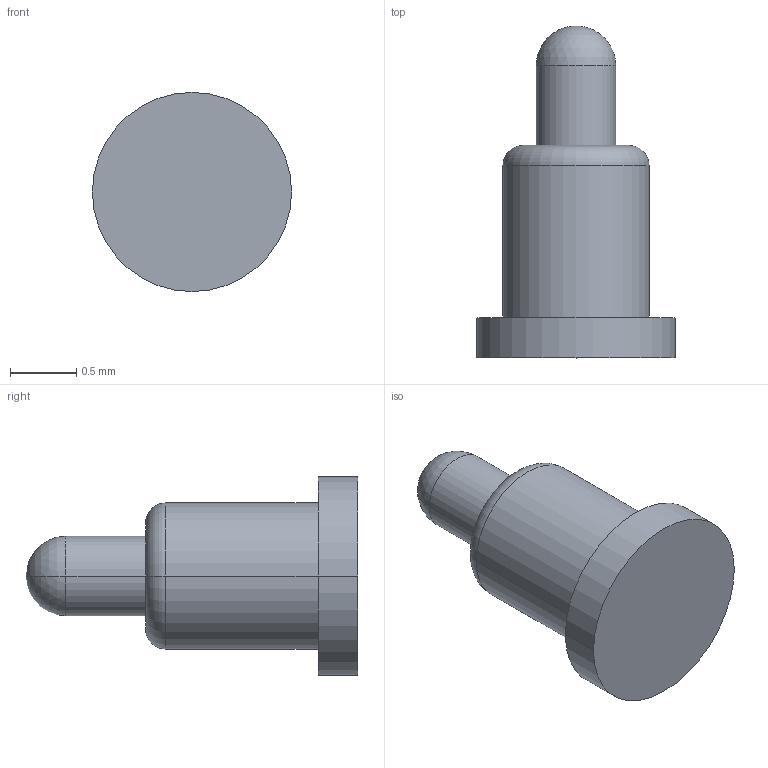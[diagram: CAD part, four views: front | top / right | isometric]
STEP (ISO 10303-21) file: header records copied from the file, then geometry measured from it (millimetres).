
FILE_DESCRIPTION((''),'2;1');
FILE_NAME('NC3281-01RA','2022-05-18T19:11:57',('Administrator'),(''),'CREO PARAMETRIC BY PTC INC, 2018400','CREO PARAMETRIC BY PTC INC, 2018400','');
FILE_SCHEMA(('CONFIG_CONTROL_DESIGN'));
Length unit declared in the file: millimetre
Products named in the file (1): NC3281-01RA
Bounding box: 1.5 x 2.5 x 1.5 mm (x, y, z)
Volume: 2 mm3; surface area: 10.6 mm2
Topology: 1 solids, 1 shells, 13 faces, 26 edges, 15 vertices
Faces by surface type: cylinder 6, plane 3, torus 2, sphere 2
Entity records: 370 total; most frequent: DIRECTION 68, CARTESIAN_POINT 52, ORIENTED_EDGE 48, AXIS2_PLACEMENT_3D 31, EDGE_CURVE 24, CIRCLE 18, VERTEX_POINT 15, EDGE_LOOP 15
